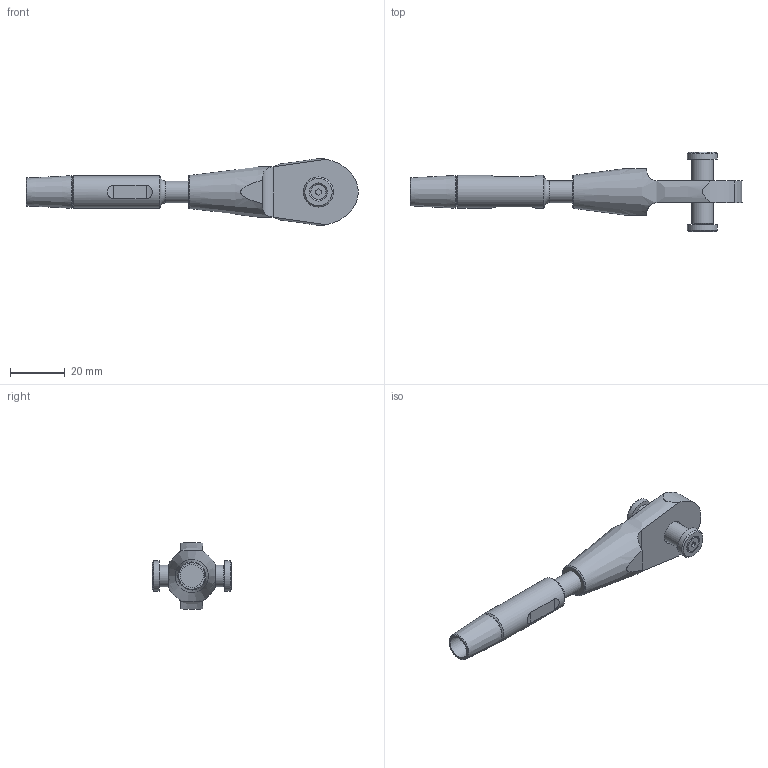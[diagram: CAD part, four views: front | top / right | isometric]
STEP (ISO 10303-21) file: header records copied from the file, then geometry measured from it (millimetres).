
FILE_DESCRIPTION(/* description */ (''),/* implementation_level */ '2;1');
FILE_NAME(/* name */ 'C:\Vault_WS\Designs\SB\01-PX\Verzinkt\ZSS\520 - Zusambau-OES-ADA\520-008-OES-ADA-Kunde.stp',/* time_stamp */ '2020-10-07T15:29:05+02:00',/* author */ ('schwarz'),/* organization */ (''),/* preprocessor_version */ 'ST-DEVELOPER v18.1',/* originating_system */ 'Autodesk Inventor 2020',/* authorisation */ '');
FILE_SCHEMA (('AUTOMOTIVE_DESIGN { 1 0 10303 214 3 1 1 }'));
Length unit declared in the file: millimetre
Products named in the file (1): 117450
Bounding box: 121.46 x 29.11 x 24.51 mm (x, y, z)
Volume: 18077.3 mm3; surface area: 8210.2 mm2
Topology: 6 solids, 6 shells, 62 faces, 151 edges, 105 vertices
Faces by surface type: plane 27, cylinder 20, cone 13, torus 2
Full cylindrical faces by diameter (mm): 2.459 x1, 3 x1, 3.5 x1, 5.54 x1, 8 x2, 8.4 x1, 9 x1, 11 x2, 12 x1
Entity records: 2119 total; most frequent: CARTESIAN_POINT 521, DIRECTION 312, ORIENTED_EDGE 298, EDGE_CURVE 149, AXIS2_PLACEMENT_3D 130, VERTEX_POINT 105, EDGE_LOOP 72, STYLED_ITEM 68
